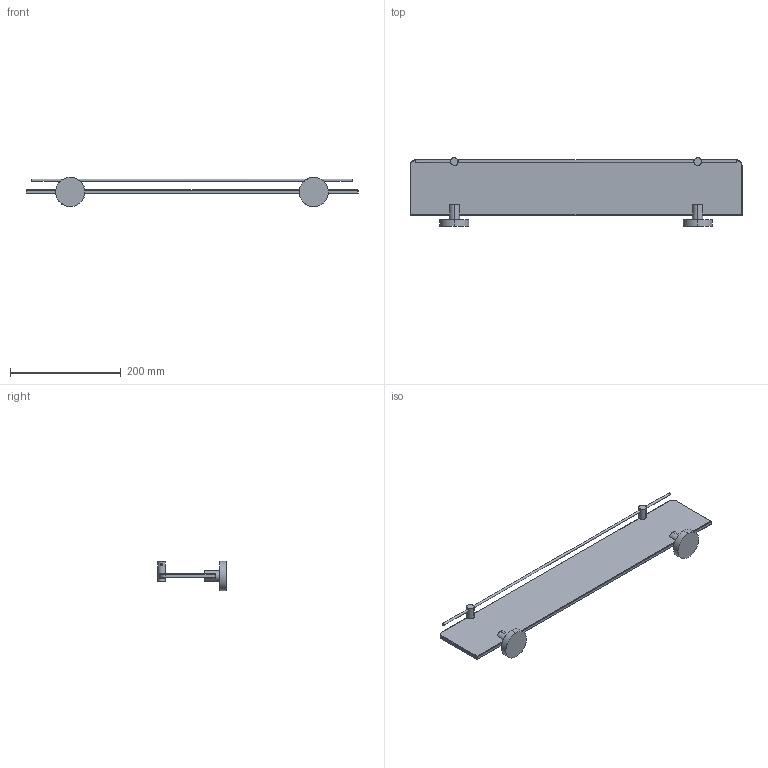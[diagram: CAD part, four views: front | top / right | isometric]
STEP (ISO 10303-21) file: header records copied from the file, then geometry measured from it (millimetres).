
FILE_DESCRIPTION(('THIS FILE CONTAINS SOME STEP INSTANCES'),'1');
FILE_NAME('HAR 036-light.stp','2015-11-17T14:53:13',('UNDEFINED'),('UNDEFINED'),'T-FLEX CAD STEP converter','T-FLEX CAD','');
FILE_SCHEMA(('CONFIG_CONTROL_DESIGN'));
Length unit declared in the file: metre
Products named in the file (4): 3D 鐨飹懤艜_12; har_035
Bounding box: 600 x 124 x 53 mm (x, y, z)
Volume: 497691.9 mm3; surface area: 155586.9 mm2
Topology: 4 solids, 4 shells, 212 faces, 445 edges, 247 vertices
Faces by surface type: plane 106, cone 62, bspline 24, cylinder 20
Entity records: 8525 total; most frequent: CARTESIAN_POINT 4381, ORIENTED_EDGE 890, DIRECTION 744, EDGE_CURVE 445, LINE 282, VECTOR 282, VERTEX_POINT 247, AXIS2_PLACEMENT_3D 231
